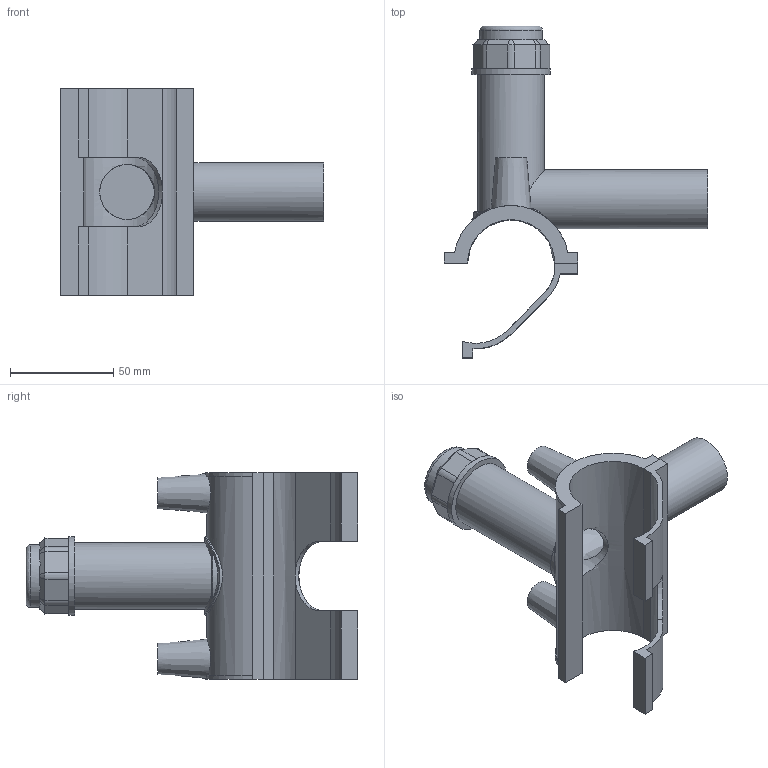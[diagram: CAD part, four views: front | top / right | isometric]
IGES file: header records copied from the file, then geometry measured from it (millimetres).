
Global section: file name: 5963BU03013010.ipt; native system: Autodesk Inventor 2019; preprocessor: unknown; author: KIM; date: 20210830.101438; units: millimetre
Bounding box: 127.25 x 160.41 x 100.08 mm (x, y, z)
Volume: 135065.3 mm3; surface area: 65189.4 mm2
Topology: 2 solids, 2 shells, 111 faces, 286 edges, 187 vertices
Faces by surface type: plane 66, cylinder 23, cone 11, revolution 10, bspline 1
Full cylindrical faces by diameter (mm): 4 x2, 28.45 x1, 30.312 x1, 32.206 x1, 37.89 x1
